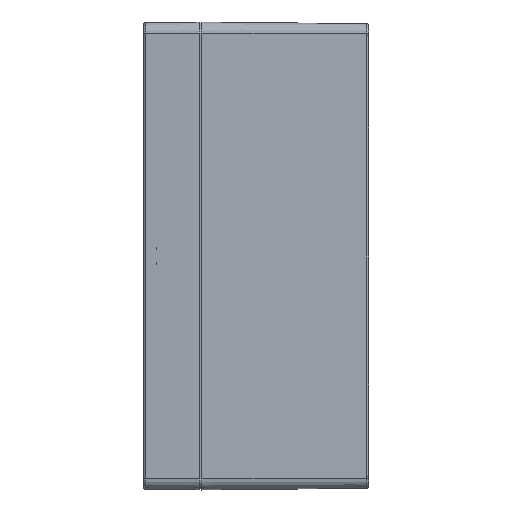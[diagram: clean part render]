
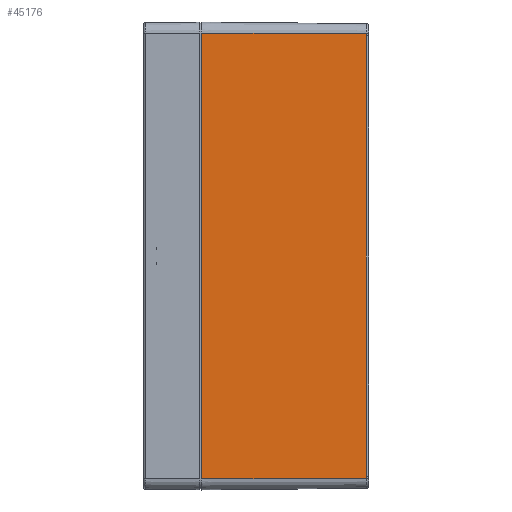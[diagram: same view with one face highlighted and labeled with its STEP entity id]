
A CAD part, left-side view. The second image highlights one B-rep face of the part: STEP entity #45176.
In plain terms, the highlighted planar face has unit normal (-1, -0.011, 0).
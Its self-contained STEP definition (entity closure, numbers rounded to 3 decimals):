
#754 = CARTESIAN_POINT ( 'NONE',  ( -124.84, -1., -118.85 ) ) ;
#12774 = LINE ( 'NONE', #38816, #49870 ) ;
#13602 = DIRECTION ( 'NONE',  ( 0., 0., 1. ) ) ;
#14151 = FACE_OUTER_BOUND ( 'NONE', #70364, .T. ) ;
#15351 = ORIENTED_EDGE ( 'NONE', *, *, #72102, .T. ) ;
#17868 = B_SPLINE_CURVE_WITH_KNOTS ( 'NONE', 3,
 ( #47162, #80872, #80004, #60800 ),
 .UNSPECIFIED., .F., .F.,
 ( 4, 4 ),
 ( 0., 0.001 ),
 .UNSPECIFIED. ) ;
#19394 = CARTESIAN_POINT ( 'NONE',  ( -124.84, -1., 118.85 ) ) ;
#22261 = DIRECTION ( 'NONE',  ( -1., -0.01, 0. ) ) ;
#23322 = EDGE_CURVE ( 'NONE', #62345, #64878, #12774, .T. ) ;
#23440 = CARTESIAN_POINT ( 'NONE',  ( -123.92, -88.763, 117.565 ) ) ;
#24268 = CARTESIAN_POINT ( 'NONE',  ( -123.92, -88.783, 118.421 ) ) ;
#28658 = PLANE ( 'NONE',  #39529 ) ;
#29378 = DIRECTION ( 'NONE',  ( -0.01, 1., 0. ) ) ;
#32182 = DIRECTION ( 'NONE',  ( 0., 0., -1. ) ) ;
#32259 = ORIENTED_EDGE ( 'NONE', *, *, #61276, .F. ) ;
#33720 = ORIENTED_EDGE ( 'NONE', *, *, #67217, .T. ) ;
#34187 = CARTESIAN_POINT ( 'NONE',  ( -123.92, -88.763, -117.565 ) ) ;
#36039 = ORIENTED_EDGE ( 'NONE', *, *, #23322, .T. ) ;
#37843 = VERTEX_POINT ( 'NONE', #77546 ) ;
#38816 = CARTESIAN_POINT ( 'NONE',  ( -123.92, -88.763, 118.85 ) ) ;
#39529 = AXIS2_PLACEMENT_3D ( 'NONE', #54680, #22261, #40184 ) ;
#40184 = DIRECTION ( 'NONE',  ( 0.01, -1., 0. ) ) ;
#42063 = VERTEX_POINT ( 'NONE', #56474 ) ;
#42594 = CARTESIAN_POINT ( 'NONE',  ( -124.85, 0., -118.85 ) ) ;
#42599 = LINE ( 'NONE', #74574, #43512 ) ;
#43512 = VECTOR ( 'NONE', #29378, 1000. ) ;
#45176 = ADVANCED_FACE ( 'NONE', ( #14151 ), #28658, .T. ) ;
#47162 = CARTESIAN_POINT ( 'NONE',  ( -123.92, -88.784, -118.85 ) ) ;
#49332 = VERTEX_POINT ( 'NONE', #75831 ) ;
#49870 = VECTOR ( 'NONE', #13602, 1000. ) ;
#50291 = CARTESIAN_POINT ( 'NONE',  ( -123.92, -88.763, 117.993 ) ) ;
#53704 = EDGE_CURVE ( 'NONE', #64878, #42063, #61885, .T. ) ;
#54680 = CARTESIAN_POINT ( 'NONE',  ( -124.85, 0., 118.85 ) ) ;
#56210 = DIRECTION ( 'NONE',  ( -0.01, 1., 0. ) ) ;
#56474 = CARTESIAN_POINT ( 'NONE',  ( -123.92, -88.784, 118.85 ) ) ;
#56695 = CARTESIAN_POINT ( 'NONE',  ( -123.92, -88.784, 118.85 ) ) ;
#60295 = VECTOR ( 'NONE', #56210, 1000. ) ;
#60800 = CARTESIAN_POINT ( 'NONE',  ( -123.92, -88.763, -117.565 ) ) ;
#61276 = EDGE_CURVE ( 'NONE', #49332, #79827, #74568, .T. ) ;
#61885 = B_SPLINE_CURVE_WITH_KNOTS ( 'NONE', 3,
 ( #23440, #50291, #24268, #56695 ),
 .UNSPECIFIED., .F., .F.,
 ( 4, 4 ),
 ( 0., 0.001 ),
 .UNSPECIFIED. ) ;
#62345 = VERTEX_POINT ( 'NONE', #34187 ) ;
#64878 = VERTEX_POINT ( 'NONE', #77042 ) ;
#67217 = EDGE_CURVE ( 'NONE', #42063, #37843, #42599, .T. ) ;
#68604 = VECTOR ( 'NONE', #32182, 1000. ) ;
#70364 = EDGE_LOOP ( 'NONE', ( #33720, #15351, #32259, #73926, #36039, #77245 ) ) ;
#72102 = EDGE_CURVE ( 'NONE', #37843, #79827, #72259, .T. ) ;
#72259 = LINE ( 'NONE', #19394, #68604 ) ;
#73926 = ORIENTED_EDGE ( 'NONE', *, *, #75633, .T. ) ;
#74568 = LINE ( 'NONE', #42594, #60295 ) ;
#74574 = CARTESIAN_POINT ( 'NONE',  ( -124.85, 0., 118.85 ) ) ;
#75633 = EDGE_CURVE ( 'NONE', #49332, #62345, #17868, .T. ) ;
#75831 = CARTESIAN_POINT ( 'NONE',  ( -123.92, -88.784, -118.85 ) ) ;
#77042 = CARTESIAN_POINT ( 'NONE',  ( -123.92, -88.763, 117.565 ) ) ;
#77245 = ORIENTED_EDGE ( 'NONE', *, *, #53704, .T. ) ;
#77546 = CARTESIAN_POINT ( 'NONE',  ( -124.84, -1., 118.85 ) ) ;
#79827 = VERTEX_POINT ( 'NONE', #754 ) ;
#80004 = CARTESIAN_POINT ( 'NONE',  ( -123.92, -88.763, -117.993 ) ) ;
#80872 = CARTESIAN_POINT ( 'NONE',  ( -123.92, -88.783, -118.421 ) ) ;
